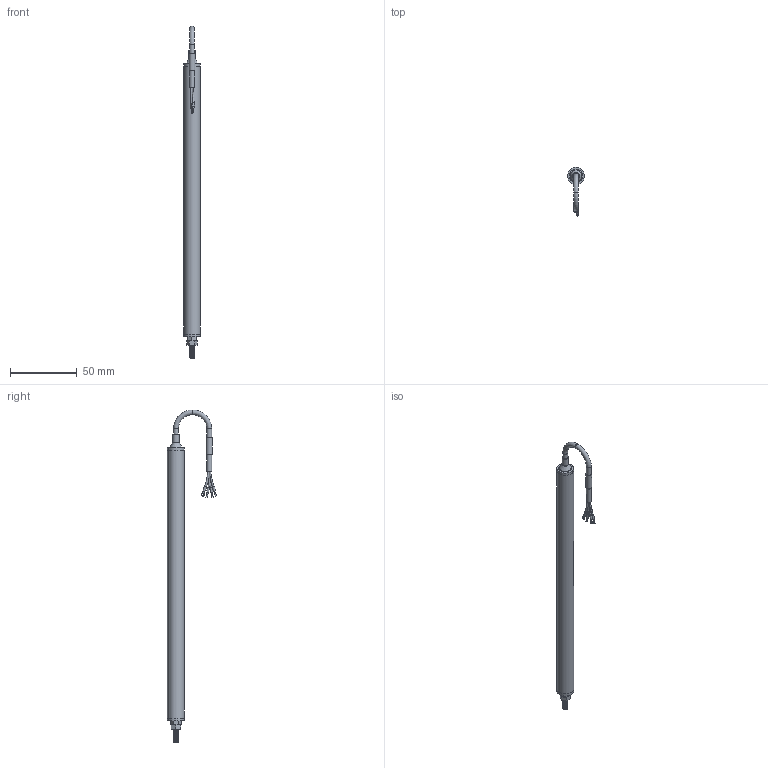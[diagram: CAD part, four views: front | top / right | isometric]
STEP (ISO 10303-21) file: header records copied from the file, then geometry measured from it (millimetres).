
FILE_DESCRIPTION(/* description */ (''),/* implementation_level */ '2;1');
FILE_NAME(/* name */ 'LPPS-12-150-A Assembly (wrapped).step',/* time_stamp */ '2025-09-24T14:49:55-04:00',/* author */ ('JN'),/* organization */ (''),/* preprocessor_version */ 'ST-DEVELOPER v20.1',/* originating_system */ 'Autodesk Inventor 2026',/* authorisation */ '');
FILE_SCHEMA (('AUTOMOTIVE_DESIGN { 1 0 10303 214 3 1 1 }'));
Length unit declared in the file: inch
Products named in the file (4): LPPS-12-010-A Assembly (wrapped); LPPS-12-010-A Body (wrapped); LPPS-12-010-A Assembly_Simplify_1; Wire
Assembly tree (3 placements, depth 2):
  LPPS-12-010-A Assembly (wrapped)
    LPPS-12-010-A Body (wrapped)
    LPPS-12-010-A Assembly_Simplify_1
    Wire
Bounding box: 12.7 x 36.8 x 249.24 mm (x, y, z)
Volume: 26867.5 mm3; surface area: 15400.3 mm2
Topology: 13 solids, 13 shells, 133 faces, 286 edges, 190 vertices
Faces by surface type: plane 75, cylinder 44, bspline 8, torus 5, cone 1
Full cylindrical faces by diameter (mm): 1.016 x3, 1.27 x1, 1.524 x3, 1.651 x2, 3.632 x6, 3.937 x8, 4.191 x1, 4.445 x1, 4.826 x1, 12.7 x3
Entity records: 5483 total; most frequent: CARTESIAN_POINT 2222, DIRECTION 619, ORIENTED_EDGE 572, EDGE_CURVE 286, AXIS2_PLACEMENT_3D 236, VERTEX_POINT 190, EDGE_LOOP 150, LINE 147
